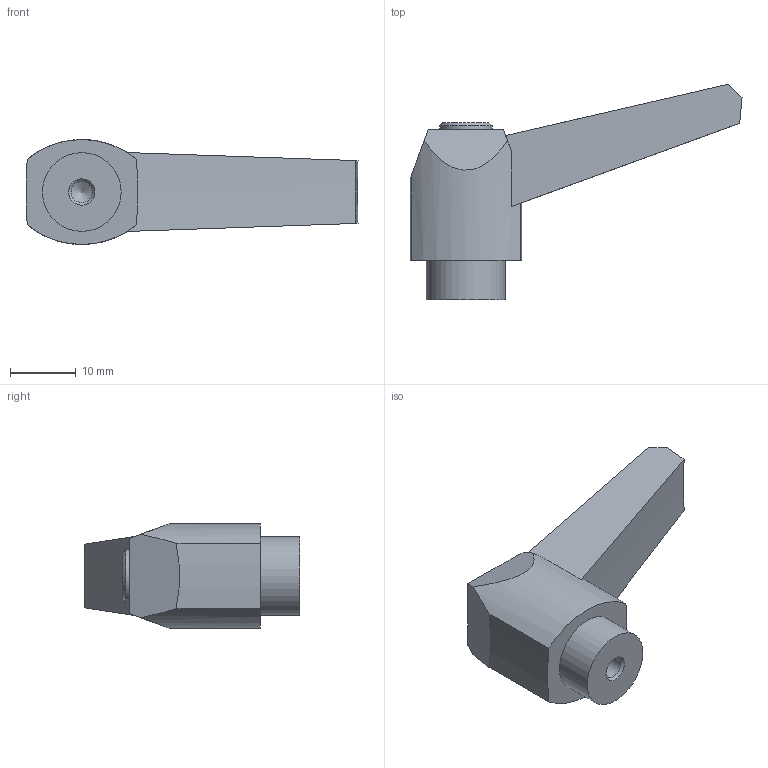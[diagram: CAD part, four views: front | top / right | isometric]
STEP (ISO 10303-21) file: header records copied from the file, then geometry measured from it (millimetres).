
FILE_DESCRIPTION( ( 'STEP AP203' ), '1' );
FILE_NAME( 'C:/Temp/Ganter_Step_05_03_2020/data/2_1/gn_500/gn_500_mb/Adjustable hand lever GN 500-42-M4-SW.stp', '2020-03-05T11:26:27', ( 'License CC BY-ND 4.0' ), ( 'CADENAS' ), ' ', 'PARTsolutions', ' ' );
FILE_SCHEMA( ( 'CONFIG_CONTROL_DESIGN' ) );
Length unit declared in the file: millimetre
Products named in the file (1): _Adjustable hand lever GN 500-42-M4-SW
Bounding box: 50.59 x 32.85 x 16 mm (x, y, z)
Volume: 8219.6 mm3; surface area: 3136.2 mm2
Topology: 1 solids, 1 shells, 24 faces, 58 edges, 38 vertices
Faces by surface type: plane 10, cone 7, cylinder 7
Full cylindrical faces by diameter (mm): 3.242 x1, 8 x1, 12 x1
Entity records: 712 total; most frequent: CARTESIAN_POINT 124, DIRECTION 118, ORIENTED_EDGE 100, EDGE_CURVE 50, AXIS2_PLACEMENT_3D 47, VERTEX_POINT 37, EDGE_LOOP 32, FACE_OUTER_BOUND 27
